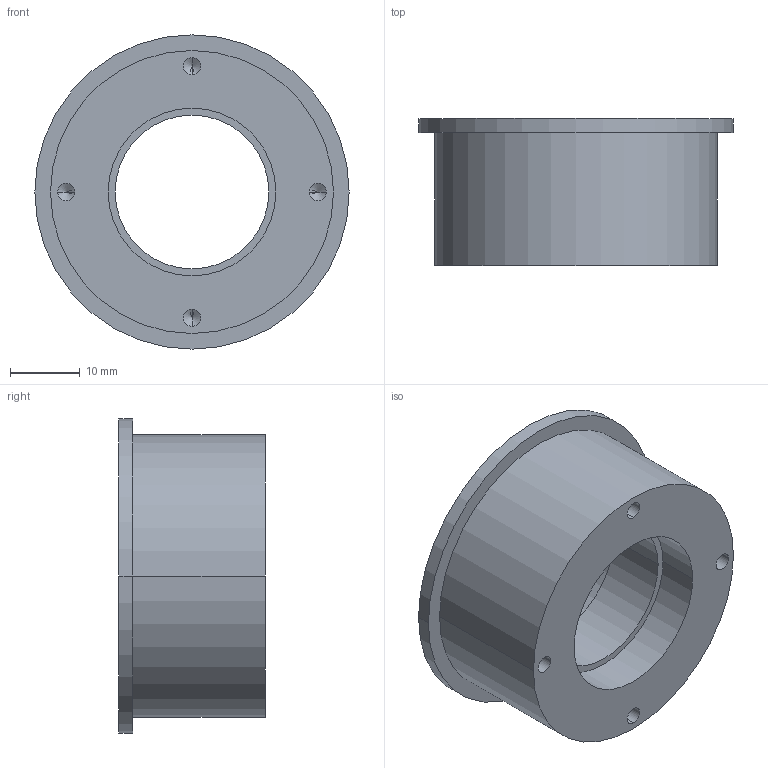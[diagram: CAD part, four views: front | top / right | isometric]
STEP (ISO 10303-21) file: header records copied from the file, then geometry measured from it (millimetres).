
FILE_DESCRIPTION(/* description */ (''),/* implementation_level */ '2;1');
FILE_NAME(/* name */ 'RI80+霍尔内转子.prt.stp',/* time_stamp */ '2022-11-10T11:40:17+08:00',/* author */ (''),/* organization */ (''),/* preprocessor_version */ 'ST-DEVELOPER v16.7',/* originating_system */ 'SIEMENS PLM Software NX 12.0',/* authorisation */ '');
FILE_SCHEMA (('AUTOMOTIVE_DESIGN { 1 0 10303 214 3 1 1 1 }'));
Length unit declared in the file: millimetre
Products named in the file (1): RI80+霍尔内转子
Bounding box: 45 x 21 x 45 mm (x, y, z)
Volume: 37370 mm3; surface area: 13678.8 mm2
Topology: 2 solids, 2 shells, 62 faces, 140 edges, 80 vertices
Faces by surface type: cylinder 36, cone 16, plane 10
Entity records: 1673 total; most frequent: DIRECTION 322, CARTESIAN_POINT 267, ORIENTED_EDGE 248, AXIS2_PLACEMENT_3D 135, EDGE_CURVE 124, EDGE_LOOP 80, VERTEX_POINT 80, CIRCLE 72
